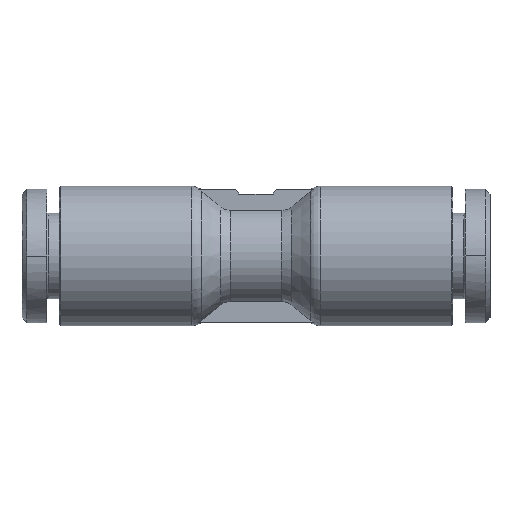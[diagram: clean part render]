
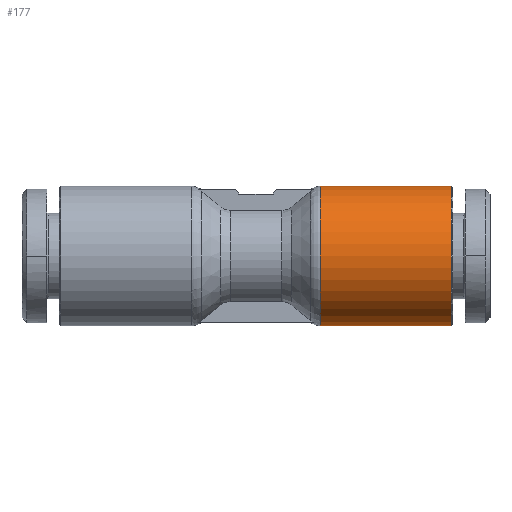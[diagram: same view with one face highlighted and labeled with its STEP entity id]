
A CAD part, front view. The second image highlights one B-rep face of the part: STEP entity #177.
In plain terms, the highlighted cylindrical face has radius 4.5 mm (diameter 9 mm), a partial arc.
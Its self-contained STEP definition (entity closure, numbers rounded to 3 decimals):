
#136=CARTESIAN_POINT('',(10.75,0.,0.0));
#137=DIRECTION('',(1.0,0.0,0.0));
#138=DIRECTION('',(0.0,0.0,1.0));
#139=AXIS2_PLACEMENT_3D('',#136,#137,#138);
#140=CYLINDRICAL_SURFACE('',#139,4.5);
#141=CARTESIAN_POINT('',(7.243,0.,4.5));
#142=VERTEX_POINT('',#141);
#143=CARTESIAN_POINT('',(15.7,0.,4.5));
#144=VERTEX_POINT('',#143);
#145=CARTESIAN_POINT('',(7.243,0.,4.5));
#146=DIRECTION('',(1.0,0.0,0.0));
#147=VECTOR('',#146,8.457);
#148=LINE('',#145,#147);
#149=EDGE_CURVE('',#142,#144,#148,.T.);
#150=ORIENTED_EDGE('',*,*,#149,.F.);
#151=CARTESIAN_POINT('',(7.243,0.,-4.5));
#152=VERTEX_POINT('',#151);
#153=CARTESIAN_POINT('',(7.243,0.,0.0));
#154=DIRECTION('',(-1.0,0.0,0.0));
#155=DIRECTION('',(0.0,0.0,-1.0));
#156=AXIS2_PLACEMENT_3D('',#153,#154,#155);
#157=CIRCLE('',#156,4.5);
#158=EDGE_CURVE('',#152,#142,#157,.T.);
#159=ORIENTED_EDGE('',*,*,#158,.F.);
#160=CARTESIAN_POINT('',(15.7,0.,-4.5));
#161=VERTEX_POINT('',#160);
#162=CARTESIAN_POINT('',(15.7,0.,-4.5));
#163=DIRECTION('',(-1.0,0.0,0.0));
#164=VECTOR('',#163,8.457);
#165=LINE('',#162,#164);
#166=EDGE_CURVE('',#161,#152,#165,.T.);
#167=ORIENTED_EDGE('',*,*,#166,.F.);
#168=CARTESIAN_POINT('',(15.7,0.,0.));
#169=DIRECTION('',(1.0,0.0,0.0));
#170=DIRECTION('',(0.0,0.0,-1.0));
#171=AXIS2_PLACEMENT_3D('',#168,#169,#170);
#172=CIRCLE('',#171,4.5);
#173=EDGE_CURVE('',#144,#161,#172,.T.);
#174=ORIENTED_EDGE('',*,*,#173,.F.);
#175=EDGE_LOOP('',(#150,#159,#167,#174));
#176=FACE_OUTER_BOUND('',#175,.T.);
#177=ADVANCED_FACE('',(#176),#140,.T.);
